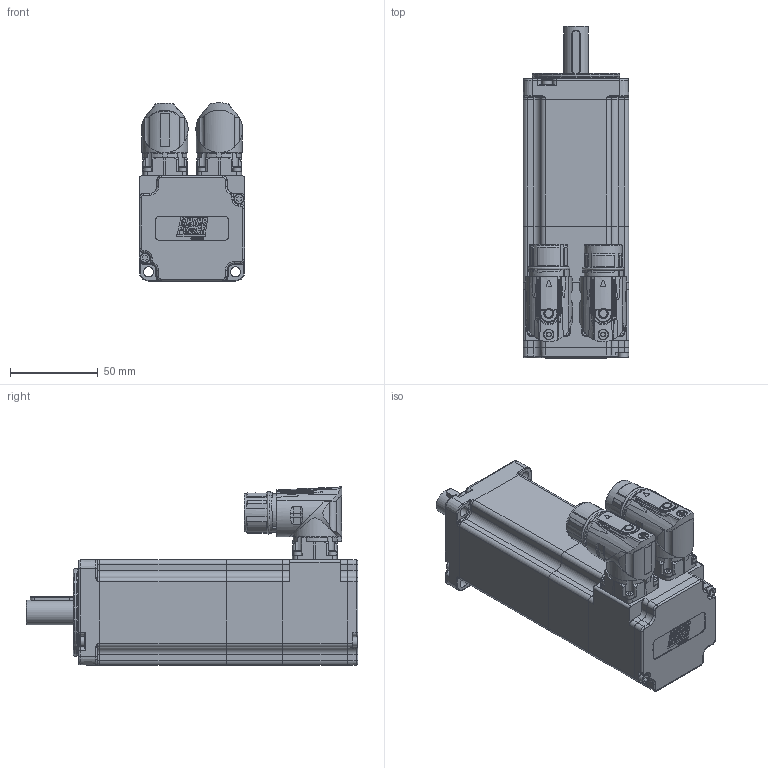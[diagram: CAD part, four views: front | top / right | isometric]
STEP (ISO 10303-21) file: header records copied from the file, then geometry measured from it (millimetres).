
FILE_DESCRIPTION(/* description */ ('Unknown'),/* implementation_level */ '2;1');
FILE_NAME(/* name */ 'TC4-60.2A.XX.X.3.M1.1.1.C2.39.00 Q0C134',/* time_stamp */ '2026-03-03T14:36:26+01:00',/* author */ ('Unknown'),/* organization */ ('Unknown'),/* preprocessor_version */ 'ST-DEVELOPER v19.4',/* originating_system */ 'Solid Edge',/* authorisation */ 'Unknown');
FILE_SCHEMA (('AUTOMOTIVE_DESIGN {1 0 10303 214 3 1 1}'));
Products named in the file (15): Q0C134 2A FRENO M1 VUOTO; 005911000171; 005911000491; 003103040224; 005113000400; 003107003285; 003155002235; 003251040722; 003151003164; 005911000495; 003003200303; 005119001310; 007117000456; 005911000492; 007117000454
Assembly tree (25 placements, depth 2):
  Q0C134 2A FRENO M1 VUOTO
    005911000171  x8
    005911000491  x2
    003103040224
    005113000400
    003107003285
    003155002235
    003251040722
    003151003164
    005911000495  x4
    003003200303
    005119001310
    007117000456
    005911000492
    007117000454
Bounding box: 60 x 188.99 x 101.5 mm (x, y, z)
Volume: 241848 mm3; surface area: 138204.1 mm2
Topology: 27 solids, 27 shells, 2239 faces, 5647 edges, 3640 vertices
Faces by surface type: plane 989, cylinder 568, cone 268, bspline 268, torus 110, sphere 36
Full cylindrical faces by diameter (mm): 0.5 x1, 1 x21, 1.2 x17, 1.4 x4, 2 x4, 2.013 x20, 2.459 x23, 2.5 x9, 2.7 x4, 2.8 x4, 3 x19, 3.2 x1, 3.5 x6, 4.134 x1, 4.5 x2, 4.7 x8, 5 x8, 5.3 x1, 5.5 x9, 5.8 x5, 5.9 x2, 6 x1, 6.8 x1, 9.99 x1, 10 x1, 11.99 x1, 12 x1, 13.8 x1, 14 x2, 14.99 x1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
Entity records: 81869 total; most frequent: CARTESIAN_POINT 21682, ORIENTED_EDGE 9592, DIRECTION 9040, EDGE_CURVE 4796, AXIS2_PLACEMENT_3D 3413, VERTEX_POINT 3315, FACE_BOUND 2725, EDGE_LOOP 2705
